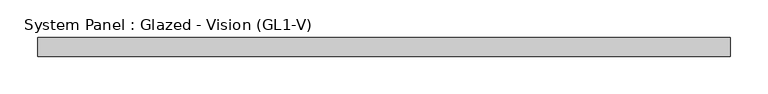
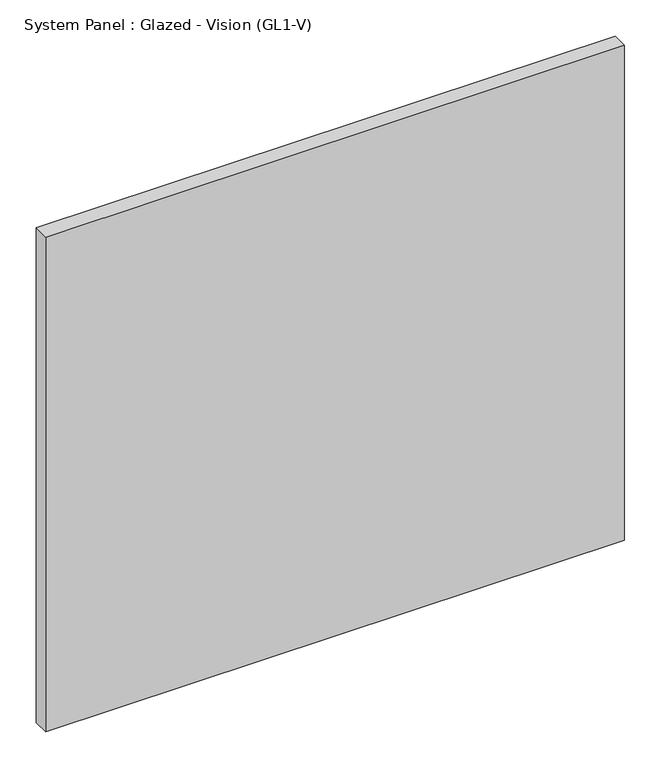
"""IFC4 building model written with IfcOpenShell, lengths in millimetres: plate geometry, System Panel : Glazed - Vision (GL1-V)."""

from ifc_helpers import new_model, si_unit, origin, origin_with_axes, place, context, project, spatial, polyline, outline, extrude, source, transform, mapped, element, save


def system_panel_glazed_vision_gl1_v_361e5d01(model_context):
    return source(origin(), model_context, "Body", "SweptSolid", [
        extrude(outline(polyline([(460.375, -25.4), (-460.375, -25.4), (-460.375, 0.0), (460.375, 0.0), (460.375, -25.4)])), origin_with_axes(), (0.0, 0.0, 1.0), 831.85),
    ])


if __name__ == "__main__":
    model = new_model("IFC4")
    model_context = context("Model", 3, world=origin())
    ifc_project = project(units=[si_unit("LENGTHUNIT", "METRE", prefix="MILLI")], contexts=[model_context])
    site = spatial("IfcSite", under=ifc_project)
    building = spatial("IfcBuilding", under=site)
    placement = place(None, origin())
    system_panel_glazed_vision_gl1_v_shape = system_panel_glazed_vision_gl1_v_361e5d01(model_context)
    element("IfcPlate", 1, ObjectType="System Panel : Glazed - Vision (GL1-V)", at=placement, inside=building, context=model_context, shape_type="MappedRepresentation", body=[
        mapped(system_panel_glazed_vision_gl1_v_shape, transform((0.0, 0.0, 0.0), x_axis=(1.0, 0.0, 0.0), y_axis=(0.0, 1.0, 0.0), z_axis=(0.0, 0.0, 1.0))),
    ])
    save(model, "model.ifc")
